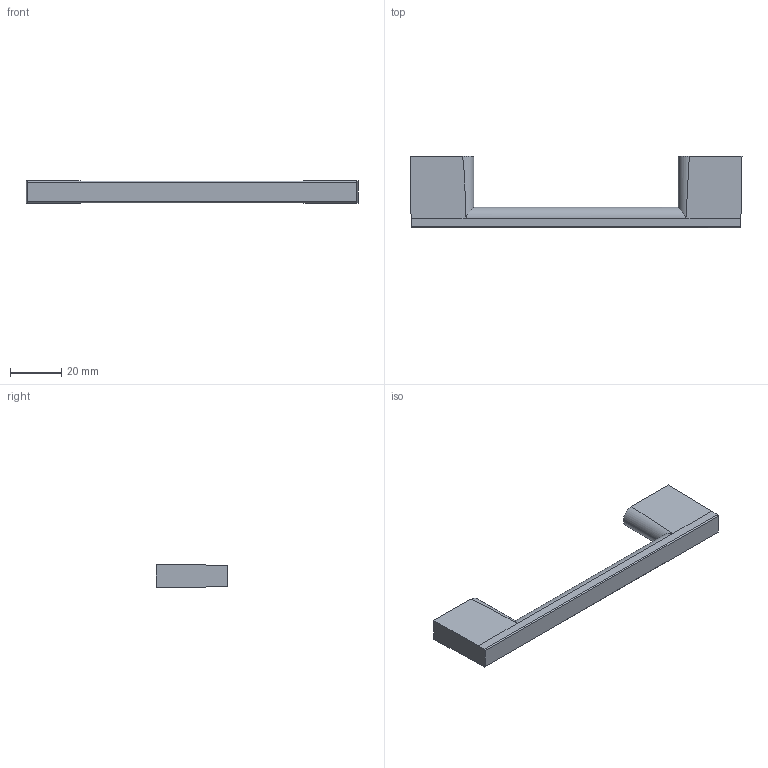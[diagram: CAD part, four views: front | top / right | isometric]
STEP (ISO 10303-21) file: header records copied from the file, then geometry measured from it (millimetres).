
FILE_DESCRIPTION( ( '' ), '1' );
FILE_NAME( 'C:/Documents and Settings/Sachin/Desktop/Sheet 10_1/stp/9995771.stp', '2013-10-22T08:51:53', ( '' ), ( '' ), ' ', ' ', ' ' );
FILE_SCHEMA( ( 'CONFIG_CONTROL_DESIGN' ) );
Length unit declared in the file: millimetre
Products named in the file (1): 1
Bounding box: 130 x 28 x 9 mm (x, y, z)
Volume: 16108 mm3; surface area: 7144.5 mm2
Topology: 1 solids, 1 shells, 31 faces, 69 edges, 44 vertices
Faces by surface type: plane 15, cylinder 12, cone 4
Entity records: 1083 total; most frequent: CARTESIAN_POINT 345, DIRECTION 149, ORIENTED_EDGE 138, EDGE_CURVE 69, AXIS2_PLACEMENT_3D 56, VERTEX_POINT 44, LINE 37, VECTOR 37
